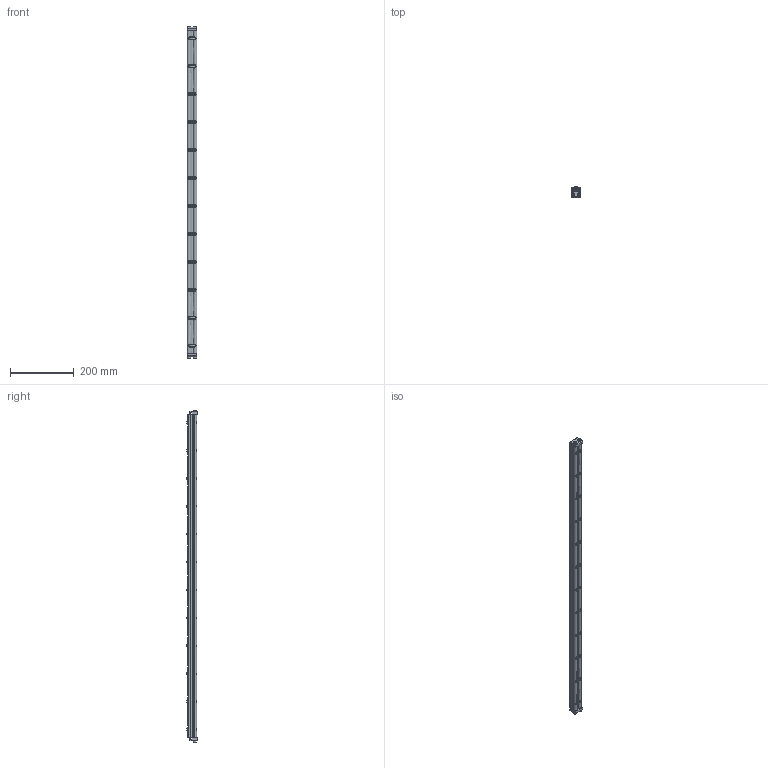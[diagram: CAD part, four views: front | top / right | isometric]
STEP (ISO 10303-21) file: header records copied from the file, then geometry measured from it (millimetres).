
FILE_DESCRIPTION((''),'2;1');
FILE_NAME('324940_ASM','2023-03-14T',('jenni.wallner'),(''),'PRO/ENGINEER BY PARAMETRIC TECHNOLOGY CORPORATION, 2012420','PRO/ENGINEER BY PARAMETRIC TECHNOLOGY CORPORATION, 2012420','');
FILE_SCHEMA(('CONFIG_CONTROL_DESIGN'));
Length unit declared in the file: inch
Products named in the file (7): X920693M; 240827_CAE; 2436WW_243640; 240826; 2410WW_CAE_241040; ASM0001_ASM; 324940_ASM
Assembly tree (21 placements, depth 3):
  324940_ASM
    ASM0001_ASM
      X920693M  x4
      240827_CAE  x2
      2436WW_243640
      240826  x12
      2410WW_CAE_241040
Bounding box: 30.88 x 33.34 x 1043.41 mm (x, y, z)
Volume: 496697.6 mm3; surface area: 294219.7 mm2
Topology: 20 solids, 20 shells, 720 faces, 2048 edges, 1352 vertices
Faces by surface type: cylinder 330, plane 242, cone 100, torus 48
Entity records: 17418 total; most frequent: CARTESIAN_POINT 4292, ORIENTED_EDGE 2864, DIRECTION 2752, EDGE_CURVE 1432, AXIS2_PLACEMENT_3D 1044, VERTEX_POINT 956, VECTOR 664, LINE 664
